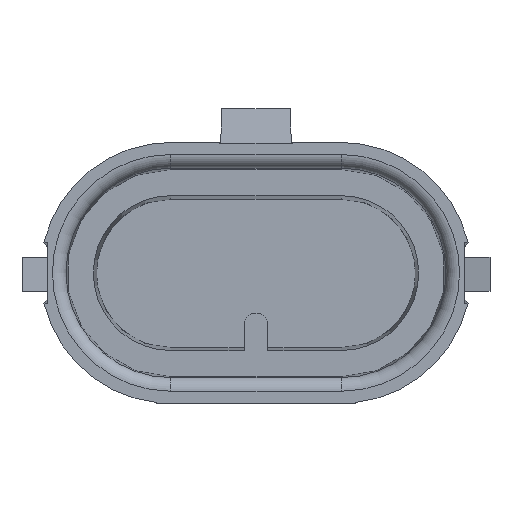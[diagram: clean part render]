
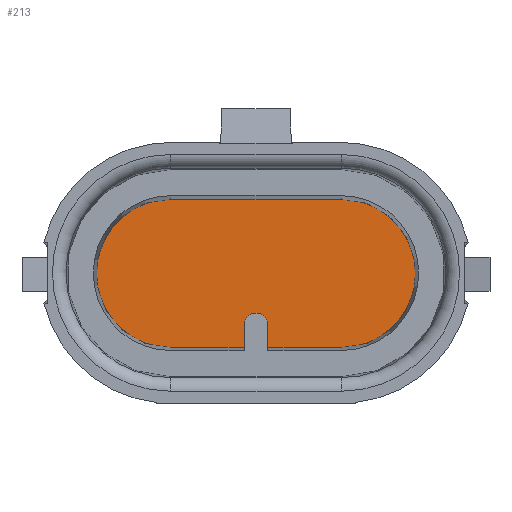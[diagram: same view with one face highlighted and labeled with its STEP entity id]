
A CAD part, top view. The second image highlights one B-rep face of the part: STEP entity #213.
In plain terms, the highlighted planar face has unit normal (0, 0, 1).
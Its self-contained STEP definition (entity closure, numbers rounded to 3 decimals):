
#70=CIRCLE('',#1547,4.35);
#72=CIRCLE('',#1550,4.35);
#103=CIRCLE('',#1630,0.7);
#213=ADVANCED_FACE('',(#350),#271,.F.);
#271=PLANE('',#1631);
#350=FACE_OUTER_BOUND('',#434,.T.);
#434=EDGE_LOOP('',(#850,#851,#852,#853,#854,#855,#856,#857));
#850=ORIENTED_EDGE('',*,*,#1116,.T.);
#851=ORIENTED_EDGE('',*,*,#1219,.T.);
#852=ORIENTED_EDGE('',*,*,#1220,.F.);
#853=ORIENTED_EDGE('',*,*,#1221,.T.);
#854=ORIENTED_EDGE('',*,*,#1011,.T.);
#855=ORIENTED_EDGE('',*,*,#1106,.F.);
#856=ORIENTED_EDGE('',*,*,#1103,.F.);
#857=ORIENTED_EDGE('',*,*,#1109,.F.);
#871=VERTEX_POINT('',#2028);
#873=VERTEX_POINT('',#2032);
#943=VERTEX_POINT('',#2333);
#944=VERTEX_POINT('',#2335);
#947=VERTEX_POINT('',#2345);
#951=VERTEX_POINT('',#2358);
#1006=VERTEX_POINT('',#2732);
#1007=VERTEX_POINT('',#2734);
#1011=EDGE_CURVE('',#871,#873,#1227,.T.);
#1103=EDGE_CURVE('',#943,#944,#1295,.T.);
#1106=EDGE_CURVE('',#944,#873,#70,.T.);
#1109=EDGE_CURVE('',#947,#943,#72,.T.);
#1116=EDGE_CURVE('',#947,#951,#1304,.T.);
#1219=EDGE_CURVE('',#951,#1006,#1364,.T.);
#1220=EDGE_CURVE('',#1007,#1006,#103,.T.);
#1221=EDGE_CURVE('',#1007,#871,#1365,.T.);
#1227=LINE('',#2033,#1371);
#1295=LINE('',#2334,#1439);
#1304=LINE('',#2359,#1448);
#1364=LINE('',#2731,#1508);
#1365=LINE('',#2735,#1509);
#1371=VECTOR('',#1640,1.);
#1439=VECTOR('',#1774,1.);
#1448=VECTOR('',#1799,1.);
#1508=VECTOR('',#2011,1.);
#1509=VECTOR('',#2014,1.);
#1547=AXIS2_PLACEMENT_3D('',#2340,#1779,#1780);
#1550=AXIS2_PLACEMENT_3D('',#2346,#1786,#1787);
#1630=AXIS2_PLACEMENT_3D('',#2733,#2012,#2013);
#1631=AXIS2_PLACEMENT_3D('',#2736,#2015,#2016);
#1640=DIRECTION('',(1.,0.,0.));
#1774=DIRECTION('',(1.,0.,0.));
#1779=DIRECTION('',(0.,0.,-1.));
#1780=DIRECTION('',(-1.,0.,0.));
#1786=DIRECTION('',(0.,0.,-1.));
#1787=DIRECTION('',(-1.,0.,0.));
#1799=DIRECTION('',(1.,0.,0.));
#2011=DIRECTION('',(0.,1.,0.));
#2012=DIRECTION('',(0.,0.,1.));
#2013=DIRECTION('',(-1.,0.,0.));
#2014=DIRECTION('',(0.,-1.,0.));
#2015=DIRECTION('',(0.,0.,-1.));
#2016=DIRECTION('',(-1.,0.,0.));
#2028=CARTESIAN_POINT('',(0.7,-4.35,-11.));
#2032=CARTESIAN_POINT('',(5.,-4.35,-11.));
#2033=CARTESIAN_POINT('',(1.75,-4.35,-11.));
#2333=CARTESIAN_POINT('',(-5.,4.35,-11.));
#2334=CARTESIAN_POINT('',(0.,4.35,-11.));
#2335=CARTESIAN_POINT('',(5.,4.35,-11.));
#2340=CARTESIAN_POINT('',(5.,0.,-11.));
#2345=CARTESIAN_POINT('',(-5.,-4.35,-11.));
#2346=CARTESIAN_POINT('',(-5.,0.,-11.));
#2358=CARTESIAN_POINT('',(-0.7,-4.35,-11.));
#2359=CARTESIAN_POINT('',(1.75,-4.35,-11.));
#2731=CARTESIAN_POINT('',(-0.7,0.6,-11.));
#2732=CARTESIAN_POINT('',(-0.7,-3.05,-11.));
#2733=CARTESIAN_POINT('',(0.,-3.05,-11.));
#2734=CARTESIAN_POINT('',(0.7,-3.05,-11.));
#2735=CARTESIAN_POINT('',(0.7,-7.511,-11.));
#2736=CARTESIAN_POINT('',(-5.,0.,-11.));
